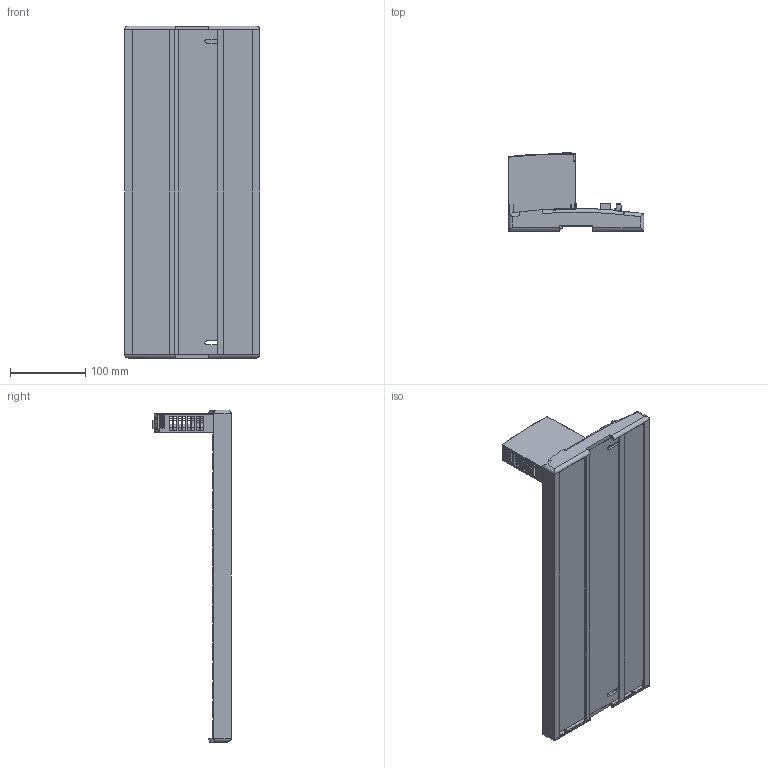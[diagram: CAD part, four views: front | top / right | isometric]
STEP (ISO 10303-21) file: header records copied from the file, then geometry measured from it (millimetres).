
FILE_DESCRIPTION((''),'2;1');
FILE_NAME('2500_16W_BLANK_IGESFILE','2012-04-11T',('chrisloe'),(''),'PRO/ENGINEER BY PARAMETRIC TECHNOLOGY CORPORATION, 2010180','PRO/ENGINEER BY PARAMETRIC TECHNOLOGY CORPORATION, 2010180','');
FILE_SCHEMA(('CONFIG_CONTROL_DESIGN'));
Products named in the file (1): 2500_16W_BLANK_IGESFILE
Bounding box: 180.49 x 104.1 x 441.8 mm (x, y, z)
Volume: 486903 mm3; surface area: 400799.4 mm2
Topology: 2 solids, 4 shells, 4756 faces, 13750 edges, 8911 vertices
Faces by surface type: plane 3555, cylinder 833, cone 183, bspline 122, torus 47, sphere 12, revolution 4
Entity records: 162123 total; most frequent: CARTESIAN_POINT 38127, ORIENTED_EDGE 27488, DIRECTION 23669, EDGE_CURVE 13746, VECTOR 9935, LINE 9935, VERTEX_POINT 8911, AXIS2_PLACEMENT_3D 6865
